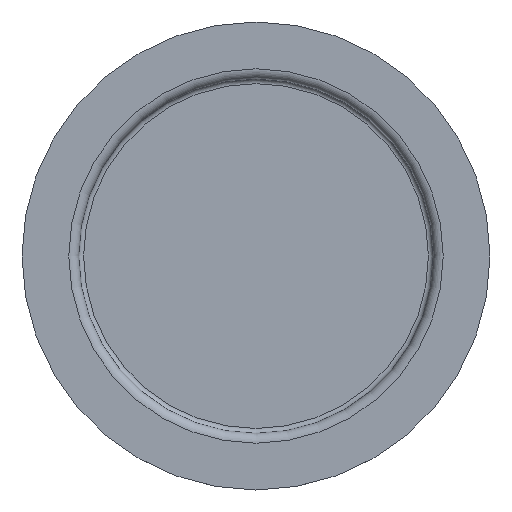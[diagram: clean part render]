
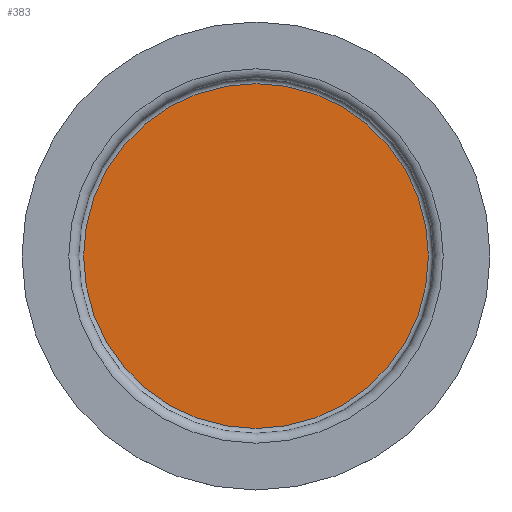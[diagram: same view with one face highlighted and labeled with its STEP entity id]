
A CAD part, top view. The second image highlights one B-rep face of the part: STEP entity #383.
In plain terms, the highlighted planar face has unit normal (0, 0, 1).
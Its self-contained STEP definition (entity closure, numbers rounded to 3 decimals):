
#28=PLANE('',#434);
#87=FACE_OUTER_BOUND('',#117,.T.);
#117=EDGE_LOOP('',(#280));
#151=CIRCLE('',#433,44.643);
#185=VERTEX_POINT('',#659);
#219=EDGE_CURVE('',#185,#185,#151,.T.);
#280=ORIENTED_EDGE('',*,*,#219,.F.);
#383=ADVANCED_FACE('',(#87),#28,.T.);
#433=AXIS2_PLACEMENT_3D('',#661,#514,#515);
#434=AXIS2_PLACEMENT_3D('',#662,#516,#517);
#514=DIRECTION('center_axis',(0.,0.,-1.));
#515=DIRECTION('ref_axis',(1.,0.,0.));
#516=DIRECTION('center_axis',(0.,0.,1.));
#517=DIRECTION('ref_axis',(-0.94,-0.342,0.));
#659=CARTESIAN_POINT('',(-50.752,-19.056,99.926));
#661=CARTESIAN_POINT('Origin',(-6.109,-19.056,99.926));
#662=CARTESIAN_POINT('Origin',(-6.109,-19.056,99.926));
